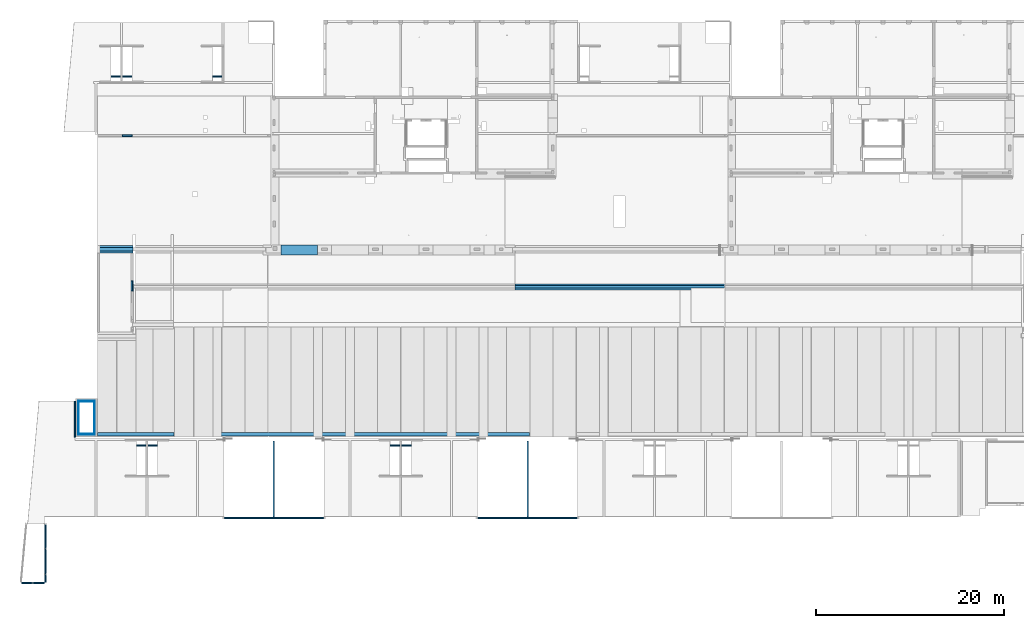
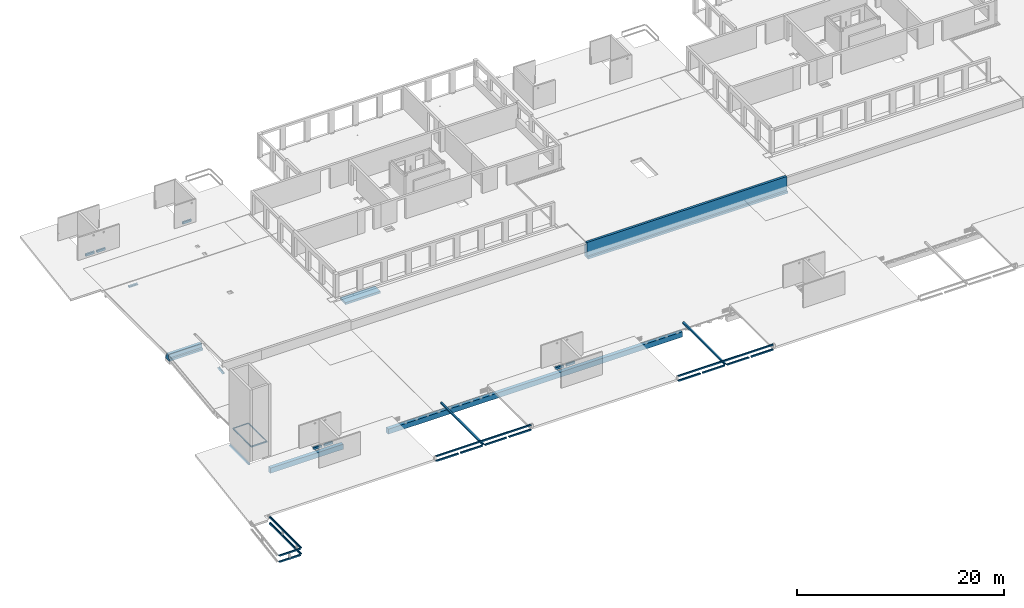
# One storey, part 11 of 36: 35 beams.
"""IFC2X3 building model written with IfcOpenShell, lengths in millimetres."""

from ifc_helpers import new_model, entity, si_unit, converted_unit, derived_unit, direction, frame, frame_2d, origin, place, context, subcontext, project, spatial, polyline, circle_curve, parameter, trimmed, segment, composite_curve, rectangle, i_section, outline, extrude, material, type_object, element, save


model = new_model("IFC2X3")

# Units and contexts
model_context = context("Model", 3, precision=0.01, world=origin(), true_north=direction((6.12303176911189e-17, 1.0)))
body_context = subcontext(model_context, "Body", "Model", "MODEL_VIEW")
ifc_project = project(units=[si_unit("LENGTHUNIT", "METRE", prefix="MILLI"), si_unit("AREAUNIT", "SQUARE_METRE"), si_unit("VOLUMEUNIT", "CUBIC_METRE"), converted_unit("PLANEANGLEUNIT", "DEGREE", entity("IfcRatioMeasure", 0.0174532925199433), si_unit("PLANEANGLEUNIT", "RADIAN"), dimensions=[0, 0, 0, 0, 0, 0, 0]), si_unit("MASSUNIT", "GRAM", prefix="KILO"), derived_unit("MASSDENSITYUNIT", [(si_unit("MASSUNIT", "GRAM", prefix="KILO"), 1), (si_unit("LENGTHUNIT", "METRE"), -3)]), si_unit("TIMEUNIT", "SECOND"), si_unit("FREQUENCYUNIT", "HERTZ"), si_unit("THERMODYNAMICTEMPERATUREUNIT", "DEGREE_CELSIUS"), derived_unit("THERMALTRANSMITTANCEUNIT", [(si_unit("MASSUNIT", "GRAM", prefix="KILO"), 1), (si_unit("THERMODYNAMICTEMPERATUREUNIT", "KELVIN"), -1), (si_unit("TIMEUNIT", "SECOND"), -3)]), derived_unit("VOLUMETRICFLOWRATEUNIT", [(si_unit("LENGTHUNIT", "METRE"), 3), (si_unit("TIMEUNIT", "SECOND"), -1)]), si_unit("ELECTRICCURRENTUNIT", "AMPERE"), si_unit("ELECTRICVOLTAGEUNIT", "VOLT"), si_unit("POWERUNIT", "WATT"), si_unit("FORCEUNIT", "NEWTON", prefix="KILO"), si_unit("ILLUMINANCEUNIT", "LUX"), si_unit("LUMINOUSFLUXUNIT", "LUMEN"), si_unit("LUMINOUSINTENSITYUNIT", "CANDELA"), derived_unit("USERDEFINED", [(si_unit("MASSUNIT", "GRAM", prefix="KILO"), -1), (si_unit("LENGTHUNIT", "METRE"), -2), (si_unit("TIMEUNIT", "SECOND"), 3), (si_unit("LUMINOUSFLUXUNIT", "LUMEN"), 1)]), derived_unit("LINEARVELOCITYUNIT", [(si_unit("LENGTHUNIT", "METRE"), 1), (si_unit("TIMEUNIT", "SECOND"), -1)]), si_unit("PRESSUREUNIT", "PASCAL"), derived_unit("USERDEFINED", [(si_unit("LENGTHUNIT", "METRE"), -2), (si_unit("MASSUNIT", "GRAM", prefix="KILO"), 1), (si_unit("TIMEUNIT", "SECOND"), -2)])], contexts=[model_context])

# Site, building, storey
site_placement = place(None, origin())
site = spatial("IfcSite", under=ifc_project, at=site_placement, Name="Default", CompositionType="ELEMENT")
building_placement = place(site_placement, origin())
building = spatial("IfcBuilding", under=site, at=building_placement, Name="niet gebruiken", CompositionType="ELEMENT")
storey_placement = place(building_placement, frame((0.0, 0.0, 12600.0)))
storey = spatial("IfcBuildingStorey", under=building, at=storey_placement, Name="04 vierde verdieping", CompositionType="ELEMENT", Elevation=12600.0)

# Beams
ifc_material_1 = material(Name="NLRS_f2_beton prefab")
beam_type_1 = type_object("IfcBeamType", Name="NLRS_28.11_SF_WPB_prefabbeton balk dubbele sponning_gen:800x660/200x410/200x410", PredefinedType="BEAM")
beam_1_placement = place(storey_placement, frame((8245.0, 28881.0, -240.0)))
element("IfcBeam", 1, at=beam_1_placement, inside=storey, type_object=beam_type_1, material=ifc_material_1, Name="NLRS_28.11_SF_WPB_prefabbeton balk dubbele sponning_gen:800x660/200x410/200x410", ObjectType="NLRS_28.11_SF_WPB_prefabbeton balk dubbele sponning_gen:800x660/200x410/200x410", context=body_context, shape_type="SweptSolid", body=[
    extrude(outline(polyline([(40.0, -400.0), (290.0, -400.0), (290.0, 400.0), (40.0, 400.0), (40.0, 200.0), (-370.0, 200.0), (-370.0, -200.0), (40.0, -200.0), (40.0, -400.0)])), frame((0.0, 0.0, -370.0), z_axis=(1.0, 0.0, 0.0), x_axis=(0.0, 0.0, -1.0)), (0.0, 0.0, 1.0), 3760.00000000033),
])
beam_type_2 = type_object("IfcBeamType", Name="NLRS_28.11_SF_WPB_prefabbeton balk dubbele sponning_gen:650x1860/200x1530/200x490", PredefinedType="BEAM")
beam_2_placement = place(storey_placement, frame((52650.0, 24876.0, -160.0)))
element("IfcBeam", 2, at=beam_2_placement, inside=storey, type_object=beam_type_2, material=ifc_material_1, Name="NLRS_28.11_SF_WPB_prefabbeton balk dubbele sponning_gen:650x1860/200x1530/200x490", ObjectType="NLRS_28.11_SF_WPB_prefabbeton balk dubbele sponning_gen:650x1860/200x1530/200x490", context=body_context, shape_type="SweptSolid", body=[
    extrude(outline(polyline([(616.250000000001, -325.0), (871.249999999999, -325.0), (871.249999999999, 325.0), (-498.749999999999, 325.0), (-498.750000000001, 125.0), (-988.75, 125.0), (-988.75, -125.0), (616.250000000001, -125.0), (616.250000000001, -325.0)])), frame((0.0, 0.0, -988.75), z_axis=(1.0, 0.0, 0.0), x_axis=(0.0, 0.0, -1.0)), (0.0, 0.0, 1.0), 22299.9999999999),
])
beam_type_3 = type_object("IfcBeamType", Name="NLRS_28.11_SF_WPB_prefabbeton balk recht_gen:400x600", PredefinedType="BEAM")
beam_3_placement = place(storey_placement, frame((8245.0, 9196.0, -1670.0)))
element("IfcBeam", 3, at=beam_3_placement, inside=storey, type_object=beam_type_3, material=ifc_material_1, Name="NLRS_28.11_SF_WPB_prefabbeton balk recht_gen:400x600", ObjectType="NLRS_28.11_SF_WPB_prefabbeton balk recht_gen:400x600", context=body_context, shape_type="SweptSolid", body=[
    extrude(rectangle(XDim=599.999999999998, YDim=400.0, at=frame_2d((1.08002495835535e-12, 3.03259639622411e-11), x_axis=(1.0, 0.0))), frame((0.0, 0.0, -300.0), z_axis=(1.0, 0.0, 0.0), x_axis=(0.0, 0.0, -1.0)), (0.0, 0.0, 1.0), 8155.00000000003),
])
beam_4_placement = place(storey_placement, frame((21400.0, 9196.0, -1670.0)))
element("IfcBeam", 4, at=beam_4_placement, inside=storey, type_object=beam_type_3, material=ifc_material_1, Name="NLRS_28.11_SF_WPB_prefabbeton balk recht_gen:400x600", ObjectType="NLRS_28.11_SF_WPB_prefabbeton balk recht_gen:400x600", context=body_context, shape_type="SweptSolid", body=[
    extrude(rectangle(XDim=600.0, YDim=400.0, at=frame_2d((1.08002495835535e-12, 1.22355459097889e-10), x_axis=(1.0, 0.0))), frame((0.0, 0.0, -300.0), z_axis=(1.0, 0.0, 0.0), x_axis=(0.0, 0.0, -1.0)), (0.0, 0.0, 1.0), 32800.0),
])
ifc_material_2 = material(Name="NLRS_h2_staal")
beam_type_4 = type_object("IfcBeamType", Name="NLRS_28.11_SF_WPB_stalen ligger HEA_gen:ligger HEA 160", PredefinedType="BEAM")
beam_5_placement = place(storey_placement, frame((21700.0, 300.0, -240.0)))
element("IfcBeam", 5, at=beam_5_placement, inside=storey, type_object=beam_type_4, material=ifc_material_2, Name="NLRS_28.11_SF_WPB_stalen ligger HEA_gen:ligger HEA 160", ObjectType="NLRS_28.11_SF_WPB_stalen ligger HEA_gen:ligger HEA 160", context=body_context, shape_type="SweptSolid", body=[
    extrude(i_section(OverallWidth=159.999999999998, OverallDepth=152.000000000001, WebThickness=5.99999999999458, FlangeThickness=8.99999999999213, FilletRadius=15.0000000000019, at=frame_2d((0.0, 8.66862137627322e-13), x_axis=(1.0, 0.0))), frame((0.0, 0.0, 0.0), z_axis=(1.0, 0.0, 0.0), x_axis=(0.0, 0.0, -1.0)), (0.0, 0.0, 1.0), 2499.99999999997),
])
for number, where, name in (
    (6, (-24.4230463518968, -6630.0, -415.0), "NLRS_28.11_SF_WPB_stalen ligger HEA_gen:ligger HEA 160"),
    (7, (-24.4230463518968, -6630.0, 319.999928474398), "NLRS_28.11_SF_WPB_stalen ligger HEA_gen:ligger HEA 160"),
):
    element("IfcBeam", number, at=place(storey_placement, frame(where)), inside=storey, type_object=beam_type_4, material=ifc_material_2, Name=name, ObjectType="NLRS_28.11_SF_WPB_stalen ligger HEA_gen:ligger HEA 160", context=body_context, shape_type="SweptSolid", body=[
        extrude(i_section(OverallWidth=160.0, OverallDepth=152.0, WebThickness=5.99999999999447, FlangeThickness=8.99999999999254, FilletRadius=15.0000000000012, at=frame_2d((-1.08002495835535e-12, 0.0), x_axis=(1.0, 0.0))), frame((212.334719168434, 0.0, 0.0), z_axis=(1.0, 0.0, 0.0), x_axis=(0.0, 0.0, -1.0)), (0.0, 0.0, 1.0), 2399.38832718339),
    ])
for number, where, name in (
    (8, (24400.0, 300.0, -240.0), "NLRS_28.11_SF_WPB_stalen ligger HEA_gen:ligger HEA 160"),
    (9, (27100.0, 300.0, -240.0), "NLRS_28.11_SF_WPB_stalen ligger HEA_gen:ligger HEA 160"),
    (10, (29800.0, 300.0, -240.0), "NLRS_28.11_SF_WPB_stalen ligger HEA_gen:ligger HEA 160"),
):
    element("IfcBeam", number, at=place(storey_placement, frame(where)), inside=storey, type_object=beam_type_4, material=ifc_material_2, Name=name, ObjectType="NLRS_28.11_SF_WPB_stalen ligger HEA_gen:ligger HEA 160", context=body_context, shape_type="SweptSolid", body=[
        extrude(i_section(OverallWidth=160.0, OverallDepth=152.000000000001, WebThickness=5.99999999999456, FlangeThickness=8.99999999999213, FilletRadius=15.0000000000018, at=frame_2d((1.08002495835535e-12, 8.45545855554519e-13), x_axis=(1.0, 0.0))), frame((0.0, 0.0, 0.0), z_axis=(1.0, 0.0, 0.0), x_axis=(0.0, 0.0, -1.0)), (0.0, 0.0, 1.0), 2499.99999999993),
    ])
beam_6_placement = place(storey_placement, frame((21700.0, 300.0, 320.0)))
element("IfcBeam", 11, at=beam_6_placement, inside=storey, type_object=beam_type_4, material=ifc_material_2, Name="NLRS_28.11_SF_WPB_stalen ligger HEA_gen:ligger HEA 160", ObjectType="NLRS_28.11_SF_WPB_stalen ligger HEA_gen:ligger HEA 160", context=body_context, shape_type="SweptSolid", body=[
    extrude(i_section(OverallWidth=160.0, OverallDepth=152.000000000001, WebThickness=5.99999999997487, FlangeThickness=8.99999999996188, FilletRadius=15.0000000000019, at=frame_2d((-1.08002495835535e-12, 8.45545855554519e-13), x_axis=(1.0, 0.0))), frame((0.0, 0.0, 0.0), z_axis=(1.0, 0.0, 0.0), x_axis=(0.0, 0.0, -1.0)), (0.0, 0.0, 1.0), 10600.0),
])
beam_7_placement = place(storey_placement, frame((48700.0, 300.0, -240.0)))
element("IfcBeam", 12, at=beam_7_placement, inside=storey, type_object=beam_type_4, material=ifc_material_2, Name="NLRS_28.11_SF_WPB_stalen ligger HEA_gen:ligger HEA 160", ObjectType="NLRS_28.11_SF_WPB_stalen ligger HEA_gen:ligger HEA 160", context=body_context, shape_type="SweptSolid", body=[
    extrude(i_section(OverallWidth=159.999999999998, OverallDepth=152.000000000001, WebThickness=5.99999999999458, FlangeThickness=8.99999999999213, FilletRadius=15.0000000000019, at=frame_2d((0.0, 8.81072992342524e-13), x_axis=(1.0, 0.0))), frame((0.0, 0.0, 0.0), z_axis=(1.0, 0.0, 0.0), x_axis=(0.0, 0.0, -1.0)), (0.0, 0.0, 1.0), 2499.99999999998),
])
beam_8_placement = place(storey_placement, frame((51400.0, 300.0, -240.0)))
element("IfcBeam", 13, at=beam_8_placement, inside=storey, type_object=beam_type_4, material=ifc_material_2, Name="NLRS_28.11_SF_WPB_stalen ligger HEA_gen:ligger HEA 160", ObjectType="NLRS_28.11_SF_WPB_stalen ligger HEA_gen:ligger HEA 160", context=body_context, shape_type="SweptSolid", body=[
    extrude(i_section(OverallWidth=160.0, OverallDepth=152.000000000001, WebThickness=5.99999999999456, FlangeThickness=8.99999999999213, FilletRadius=15.0000000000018, at=frame_2d((1.08002495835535e-12, 8.59756710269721e-13), x_axis=(1.0, 0.0))), frame((0.0, 0.0, 0.0), z_axis=(1.0, 0.0, 0.0), x_axis=(0.0, 0.0, -1.0)), (0.0, 0.0, 1.0), 2499.99999999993),
])
for number, where, name in (
    (14, (54100.0, 300.0, -240.0), "NLRS_28.11_SF_WPB_stalen ligger HEA_gen:ligger HEA 160"),
    (15, (56800.0, 300.0, -240.0), "NLRS_28.11_SF_WPB_stalen ligger HEA_gen:ligger HEA 160"),
):
    element("IfcBeam", number, at=place(storey_placement, frame(where)), inside=storey, type_object=beam_type_4, material=ifc_material_2, Name=name, ObjectType="NLRS_28.11_SF_WPB_stalen ligger HEA_gen:ligger HEA 160", context=body_context, shape_type="SweptSolid", body=[
        extrude(i_section(OverallWidth=160.0, OverallDepth=152.000000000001, WebThickness=5.99999999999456, FlangeThickness=8.99999999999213, FilletRadius=15.0000000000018, at=frame_2d((1.08002495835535e-12, 8.95283847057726e-13), x_axis=(1.0, 0.0))), frame((0.0, 0.0, 0.0), z_axis=(1.0, 0.0, 0.0), x_axis=(0.0, 0.0, -1.0)), (0.0, 0.0, 1.0), 2499.99999999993),
    ])
beam_9_placement = place(storey_placement, frame((48700.0, 300.0, 320.0)))
element("IfcBeam", 16, at=beam_9_placement, inside=storey, type_object=beam_type_4, material=ifc_material_2, Name="NLRS_28.11_SF_WPB_stalen ligger HEA_gen:ligger HEA 160", ObjectType="NLRS_28.11_SF_WPB_stalen ligger HEA_gen:ligger HEA 160", context=body_context, shape_type="SweptSolid", body=[
    extrude(i_section(OverallWidth=160.0, OverallDepth=152.000000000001, WebThickness=5.99999999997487, FlangeThickness=8.99999999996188, FilletRadius=15.0000000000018, at=frame_2d((-1.08002495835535e-12, 8.66862137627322e-13), x_axis=(1.0, 0.0))), frame((0.0, 0.0, 0.0), z_axis=(1.0, 0.0, 0.0), x_axis=(0.0, 0.0, -1.0)), (0.0, 0.0, 1.0), 10600.0),
])
beam_type_5 = type_object("IfcBeamType", Name="NLRS_28.11_SF_WPB_stalen ligger buisprofiel warmgevormd vierkant_gen:ligger buisprofiel warmgevormd vierkant SHSH_180x180x10", PredefinedType="BEAM")
for number, where, z_axis, x_axis, name in (
    (17, (27000.0, 395.0, -180.0), (0.0, 0.0, 1.0), (0.0, 1.0, 0.0), "NLRS_28.11_SF_WPB_stalen ligger buisprofiel warmgevormd vierkant_gen:ligger buisprofiel warmgevormd vierkant SHSH_180x180x10"),
    (18, (54000.0, 395.0, -180.0), (0.0, 0.0, 1.0), (0.0, 1.0, 0.0), "NLRS_28.11_SF_WPB_stalen ligger buisprofiel warmgevormd vierkant_gen:ligger buisprofiel warmgevormd vierkant SHSH_180x180x10"),
):
    element("IfcBeam", number, at=place(storey_placement, frame(where, z_axis=z_axis, x_axis=x_axis)), inside=storey, type_object=beam_type_5, material=ifc_material_2, Name=name, ObjectType="NLRS_28.11_SF_WPB_stalen ligger buisprofiel warmgevormd vierkant_gen:ligger buisprofiel warmgevormd vierkant SHSH_180x180x10", context=body_context, shape_type="SweptSolid", body=[
        extrude(outline(polyline([(-90.0, -90.0), (90.0, -90.0), (90.0, 90.0), (-90.0, 90.0), (-90.0, -90.0)]), holes=[composite_curve([segment(polyline([(-80.0, -70.0), (-80.0, 70.0)]), True, "CONTINUOUS"), segment(trimmed(circle_curve(frame_2d((-70.0, 70.0), x_axis=(0.0, -1.0)), 10.0), [parameter(180.000000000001)], [parameter(270.0)], True, "PARAMETER"), False, "CONTINUOUS"), segment(polyline([(-70.0, 80.0), (70.0, 80.0)]), True, "CONTINUOUS"), segment(trimmed(circle_curve(frame_2d((70.0, 70.0), x_axis=(0.0, -1.0)), 10.0), [parameter(90.0000000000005)], [parameter(180.0)], True, "PARAMETER"), False, "CONTINUOUS"), segment(polyline([(80.0, 70.0), (80.0, -70.0)]), True, "CONTINUOUS"), segment(trimmed(circle_curve(frame_2d((70.0, -70.0), x_axis=(0.0, -1.0)), 10.0), [parameter(4.07110999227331e-13)], [parameter(90.0000000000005)], True, "PARAMETER"), False, "CONTINUOUS"), segment(polyline([(70.0, -80.0), (-70.0, -80.0)]), True, "CONTINUOUS"), segment(trimmed(circle_curve(frame_2d((-70.0, -70.0), x_axis=(0.0, -1.0)), 10.0), [parameter(270.0)], [parameter(4.07110999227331e-13)], True, "PARAMETER"), False, "CONTINUOUS")], self_intersect=False)]), frame((12.7000006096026, 0.0, 0.0), z_axis=(1.0, 0.0, 0.0), x_axis=(0.0, 0.0, -1.0)), (0.0, 0.0, 1.0), 8072.2999993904),
    ])
beam_type_6 = type_object("IfcBeamType", Name="NLRS_28.11_SF_WPB_stalen ligger hoekprofiel gelijkzijdig_gen:ligger gelijzijdig hoekprofiel LEQU_200x200x15", PredefinedType="BEAM")
beam_10_placement = place(storey_placement, frame((10900.0, 40968.5000000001, -460.0)))
element("IfcBeam", 19, at=beam_10_placement, inside=storey, type_object=beam_type_6, material=ifc_material_2, Name="NLRS_28.11_SF_WPB_stalen ligger hoekprofiel gelijkzijdig_gen:ligger gelijzijdig hoekprofiel LEQU_200x200x15", ObjectType="NLRS_28.11_SF_WPB_stalen ligger hoekprofiel gelijkzijdig_gen:ligger gelijzijdig hoekprofiel LEQU_200x200x15", context=body_context, shape_type="SweptSolid", body=[
    extrude(outline(composite_curve([segment(polyline([(66.3333333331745, -126.666666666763), (73.3333333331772, -126.666666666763)]), True, "CONTINUOUS"), segment(polyline([(73.3333333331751, -126.666666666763), (73.3333333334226, 73.3333333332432)]), True, "CONTINUOUS"), segment(polyline([(73.3333333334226, 73.3333333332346), (-126.666666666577, 73.3333333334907)]), True, "CONTINUOUS"), segment(polyline([(-126.666666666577, 73.3333333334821), (-126.666666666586, 66.3333333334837)]), True, "CONTINUOUS"), segment(trimmed(circle_curve(frame_2d((-118.666666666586, 66.3333333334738), x_axis=(-1.0, 0.0)), 7.9999999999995), [parameter(0.0)], [parameter(90.0000000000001)], True, "PARAMETER"), True, "CONTINUOUS"), segment(polyline([(-118.666666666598, 58.3333333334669), (42.3333333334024, 58.3333333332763)]), True, "CONTINUOUS"), segment(trimmed(circle_curve(frame_2d((42.3333333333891, 42.33333333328), x_axis=(0.0, 1.0)), 15.9999999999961), [parameter(269.999999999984)], [parameter(0.0)], True, "PARAMETER"), False, "CONTINUOUS"), segment(polyline([(58.3333333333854, 42.3333333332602), (58.3333333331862, -118.666666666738)]), True, "CONTINUOUS"), segment(trimmed(circle_curve(frame_2d((66.3333333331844, -118.666666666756), x_axis=(-1.0, 0.0)), 7.99999999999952), [parameter(0.0)], [parameter(90.0000000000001)], True, "PARAMETER"), True, "CONTINUOUS")], self_intersect=False)), frame((0.0, 19.166666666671, -126.66666666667), z_axis=(1.0, 0.0, 0.0), x_axis=(0.0, 0.0, -1.0)), (0.0, 0.0, 1.0), 1025.00000000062),
])
beam_type_7 = type_object("IfcBeamType", Name="NLRS_28.11_SF_WPB_stalen ligger HEA_gen:ligger HEA 180", PredefinedType="BEAM")
beam_11_placement = place(storey_placement, frame((2700.0, -450.0, -425.0), z_axis=(0.0, 0.0, 1.0), x_axis=(0.0, -1.0, 0.0)))
element("IfcBeam", 20, at=beam_11_placement, inside=storey, type_object=beam_type_7, material=ifc_material_2, Name="NLRS_28.11_SF_WPB_stalen ligger HEA_gen:ligger HEA 180", ObjectType="NLRS_28.11_SF_WPB_stalen ligger HEA_gen:ligger HEA 180", context=body_context, shape_type="SweptSolid", body=[
    extrude(i_section(OverallWidth=180.0, OverallDepth=171.000000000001, WebThickness=6.00000000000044, FlangeThickness=9.50000000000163, FilletRadius=15.0000000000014, at=frame_2d((-1.08002495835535e-12, 8.10018718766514e-13), x_axis=(1.0, 0.0))), frame((0.0, 0.0, 0.0), z_axis=(1.0, 0.0, 0.0), x_axis=(0.0, 0.0, -1.0)), (0.0, 0.0, 1.0), 6084.99999999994),
])
beam_12_placement = place(storey_placement, frame((2700.0, -450.0, 309.999928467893), z_axis=(0.0, 0.0, 1.0), x_axis=(0.0, -1.0, 0.0)))
element("IfcBeam", 21, at=beam_12_placement, inside=storey, type_object=beam_type_7, material=ifc_material_2, Name="NLRS_28.11_SF_WPB_stalen ligger HEA_gen:ligger HEA 180", ObjectType="NLRS_28.11_SF_WPB_stalen ligger HEA_gen:ligger HEA 180", context=body_context, shape_type="SweptSolid", body=[
    extrude(i_section(OverallWidth=180.0, OverallDepth=171.000000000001, WebThickness=6.0000000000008, FlangeThickness=9.50000000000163, FilletRadius=15.0000000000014, at=frame_2d((-1.08002495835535e-12, 8.10018718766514e-13), x_axis=(1.0, 0.0))), frame((12.6997901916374, 0.0, 0.0), z_axis=(1.0, 0.0, 0.0), x_axis=(0.0, 0.0, -1.0)), (0.0, 0.0, 1.0), 6072.3002098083),
])
ifc_material_3 = material(Name="NLRS_f2_beton ihwg")
beam_type_8 = type_object("IfcBeamType", Name="NLRS_28.11_SF_WPB_betonbalk ihwg recht_gen:180x250", PredefinedType="BEAM")
beam_13_placement = place(storey_placement, frame((9705.0, 47236.0, -90.0)))
element("IfcBeam", 22, at=beam_13_placement, inside=storey, type_object=beam_type_8, material=ifc_material_3, Name="NLRS_28.11_SF_WPB_betonbalk ihwg recht_gen:180x250", ObjectType="NLRS_28.11_SF_WPB_betonbalk ihwg recht_gen:180x250", context=body_context, shape_type="SweptSolid", body=[
    extrude(rectangle(XDim=249.999999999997, YDim=180.000000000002, at=frame_2d((1.08002495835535e-12, -4.33431068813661e-12), x_axis=(1.0, 0.0))), frame((0.0, 0.0, -125.0), z_axis=(1.0, 0.0, 0.0), x_axis=(0.0, 0.0, -1.0)), (0.0, 0.0, 1.0), 970.000000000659),
])
for number, where, name in (
    (23, (10925.0, 47236.0, -90.0), "NLRS_28.11_SF_WPB_betonbalk ihwg recht_gen:180x250"),
    (24, (20505.0, 47236.0, -90.0), "NLRS_28.11_SF_WPB_betonbalk ihwg recht_gen:180x250"),
):
    element("IfcBeam", number, at=place(storey_placement, frame(where)), inside=storey, type_object=beam_type_8, material=ifc_material_3, Name=name, ObjectType="NLRS_28.11_SF_WPB_betonbalk ihwg recht_gen:180x250", context=body_context, shape_type="SweptSolid", body=[
        extrude(rectangle(XDim=249.999999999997, YDim=180.000000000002, at=frame_2d((1.08002495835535e-12, -4.33431068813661e-12), x_axis=(1.0, 0.0))), frame((0.0, 0.0, -125.0), z_axis=(1.0, 0.0, 0.0), x_axis=(0.0, 0.0, -1.0)), (0.0, 0.0, 1.0), 970.00000000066),
    ])
for number, where, name in (
    (25, (12405.0, 8006.0, -90.0), "NLRS_28.11_SF_WPB_betonbalk ihwg recht_gen:180x250"),
    (26, (13625.0, 8006.0, -90.0), "NLRS_28.11_SF_WPB_betonbalk ihwg recht_gen:180x250"),
):
    element("IfcBeam", number, at=place(storey_placement, frame(where)), inside=storey, type_object=beam_type_8, material=ifc_material_3, Name=name, ObjectType="NLRS_28.11_SF_WPB_betonbalk ihwg recht_gen:180x250", context=body_context, shape_type="SweptSolid", body=[
        extrude(rectangle(XDim=249.999999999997, YDim=180.0, at=frame_2d((1.08713038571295e-12, 6.50146603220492e-12), x_axis=(1.0, 0.0))), frame((0.0, 0.0, -125.0), z_axis=(1.0, 0.0, 0.0), x_axis=(0.0, 0.0, -1.0)), (0.0, 0.0, 1.0), 970.00000000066),
    ])
for number, where, name in (
    (27, (39405.0, 8006.0, -90.0), "NLRS_28.11_SF_WPB_betonbalk ihwg recht_gen:180x250"),
    (28, (40625.0, 8006.0, -90.0), "NLRS_28.11_SF_WPB_betonbalk ihwg recht_gen:180x250"),
):
    element("IfcBeam", number, at=place(storey_placement, frame(where)), inside=storey, type_object=beam_type_8, material=ifc_material_3, Name=name, ObjectType="NLRS_28.11_SF_WPB_betonbalk ihwg recht_gen:180x250", context=body_context, shape_type="SweptSolid", body=[
        extrude(rectangle(XDim=249.999999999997, YDim=180.0, at=frame_2d((1.08713038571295e-12, 6.50146603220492e-12), x_axis=(1.0, 0.0))), frame((0.0, 0.0, -125.0), z_axis=(1.0, 0.0, 0.0), x_axis=(0.0, 0.0, -1.0)), (0.0, 0.0, 1.0), 970.000000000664),
    ])
beam_type_9 = type_object("IfcBeamType", Name="NLRS_28.11_SF_WPB_stalen ligger hoekprofiel gelijkzijdig_gen:ligger gelijzijdig hoekprofiel LEQU_180x180x16", PredefinedType="BEAM")
beam_14_placement = place(storey_placement, frame((5874.49999999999, 12711.0, -181.0), z_axis=(0.0, 0.0, 1.0), x_axis=(0.0, -1.0, 0.0)))
element("IfcBeam", 29, at=beam_14_placement, inside=storey, type_object=beam_type_9, material=ifc_material_2, Name="NLRS_28.11_SF_WPB_stalen ligger hoekprofiel gelijkzijdig_gen:ligger gelijzijdig hoekprofiel LEQU_180x180x16", ObjectType="NLRS_28.11_SF_WPB_stalen ligger hoekprofiel gelijkzijdig_gen:ligger gelijzijdig hoekprofiel LEQU_180x180x16", context=body_context, shape_type="SweptSolid", body=[
    extrude(outline(composite_curve([segment(polyline([(60.1111111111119, -112.888888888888), (67.1111111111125, -112.888888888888)]), True, "CONTINUOUS"), segment(polyline([(67.1111111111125, -112.888888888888), (67.1111111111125, 67.1111111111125)]), True, "CONTINUOUS"), segment(polyline([(67.1111111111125, 67.1111111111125), (-112.888888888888, 67.1111111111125)]), True, "CONTINUOUS"), segment(polyline([(-112.888888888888, 67.1111111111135), (-112.888888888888, 60.1111111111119)]), True, "CONTINUOUS"), segment(trimmed(circle_curve(frame_2d((-103.888888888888, 60.111111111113), x_axis=(-1.0, 0.0)), 9.00000000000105), [parameter(0.0)], [parameter(89.9999999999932)], True, "PARAMETER"), True, "CONTINUOUS"), segment(polyline([(-103.888888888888, 51.1111111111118), (33.1111111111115, 51.1111111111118)]), True, "CONTINUOUS"), segment(trimmed(circle_curve(frame_2d((33.1111111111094, 33.1111111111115), x_axis=(0.0, 1.0)), 18.0000000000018), [parameter(270.00000000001)], [parameter(0.0)], True, "PARAMETER"), False, "CONTINUOUS"), segment(polyline([(51.1111111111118, 33.1111111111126), (51.1111111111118, -103.888888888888)]), True, "CONTINUOUS"), segment(trimmed(circle_curve(frame_2d((60.1111111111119, -103.888888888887), x_axis=(-1.0, 0.0)), 9.00000000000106), [parameter(0.0)], [parameter(89.9999999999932)], True, "PARAMETER"), True, "CONTINUOUS")], self_intersect=False)), frame((0.0, -16.9111111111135, -112.88888888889), z_axis=(1.0, 0.0, 0.0), x_axis=(0.0, 0.0, -1.0)), (0.0, 0.0, 1.0), 3825.00000000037),
])
beam_type_10 = type_object("IfcBeamType", Name="NLRS_28.11_SF_WPB_betonbalk ihwg recht_gen:1050x250", PredefinedType="BEAM")
beam_15_placement = place(storey_placement, frame((27750.0, 28781.0, -650.0)))
element("IfcBeam", 30, at=beam_15_placement, inside=storey, type_object=beam_type_10, material=ifc_material_3, Name="NLRS_28.11_SF_WPB_betonbalk ihwg recht_gen:1050x250", ObjectType="NLRS_28.11_SF_WPB_betonbalk ihwg recht_gen:1050x250", context=body_context, shape_type="SweptSolid", body=[
    extrude(rectangle(XDim=249.999999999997, YDim=1050.0, at=frame_2d((1.08002495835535e-12, 1.08002495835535e-11), x_axis=(1.0, 0.0))), frame((0.0, 0.0, -125.0), z_axis=(1.0, 0.0, 0.0), x_axis=(0.0, 0.0, -1.0)), (0.0, 0.0, 1.0), 3900.0),
])
beam_type_11 = type_object("IfcBeamType", Name="NLRS_28.11_SF_WPB_stalen ligger hoekprofiel gelijkzijdig_gen:ligger gelijzijdig hoekprofiel LEQU_100x100x10", PredefinedType="BEAM")
beam_16_placement = place(storey_placement, frame((6175.0, 9136.0, 1530.0), z_axis=(0.0, 0.0, 1.0), x_axis=(0.0, 1.0, 0.0)))
element("IfcBeam", 31, at=beam_16_placement, inside=storey, type_object=beam_type_11, material=ifc_material_2, Name="NLRS_28.11_SF_WPB_stalen ligger hoekprofiel gelijkzijdig_gen:ligger gelijzijdig hoekprofiel LEQU_100x100x10", ObjectType="NLRS_28.11_SF_WPB_stalen ligger hoekprofiel gelijkzijdig_gen:ligger gelijzijdig hoekprofiel LEQU_100x100x10", context=body_context, shape_type="SweptSolid", body=[
    extrude(outline(composite_curve([segment(polyline([(-37.7777777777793, -62.2222222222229), (-33.777777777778, -62.2222222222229)]), True, "CONTINUOUS"), segment(trimmed(circle_curve(frame_2d((-33.7777777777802, -56.222222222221), x_axis=(0.0, -1.0)), 6.00000000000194), [parameter(0.0)], [parameter(89.9999999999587)], True, "PARAMETER"), True, "CONTINUOUS"), segment(polyline([(-27.7777777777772, -56.2222222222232), (-27.7777777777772, 15.7777777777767)]), True, "CONTINUOUS"), segment(trimmed(circle_curve(frame_2d((-15.7777777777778, 15.7777777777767), x_axis=(-1.0, 0.0)), 11.9999999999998), [parameter(270.0)], [parameter(0.0)], True, "PARAMETER"), False, "CONTINUOUS"), segment(polyline([(-15.7777777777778, 27.7777777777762), (56.222222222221, 27.7777777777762)]), True, "CONTINUOUS"), segment(trimmed(circle_curve(frame_2d((56.2222222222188, 33.7777777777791), x_axis=(0.0, -1.0)), 6.00000000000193), [parameter(0.0)], [parameter(89.9999999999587)], True, "PARAMETER"), True, "CONTINUOUS"), segment(polyline([(62.2222222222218, 33.7777777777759), (62.2222222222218, 37.7777777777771)]), True, "CONTINUOUS"), segment(polyline([(62.2222222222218, 37.7777777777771), (-37.7777777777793, 37.7777777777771)]), True, "CONTINUOUS"), segment(polyline([(-37.7777777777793, 37.7777777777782), (-37.7777777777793, -62.2222222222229)]), True, "CONTINUOUS")], self_intersect=False)), frame((125.0, -37.777777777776, -37.7777777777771), z_axis=(1.0, 0.0, 0.0), x_axis=(0.0, 0.0, -1.0)), (0.0, 0.0, 1.0), 3350.00000000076),
])
beam_17_placement = place(storey_placement, frame((7975.0, 12736.0, 1530.0), z_axis=(0.0, 0.0, 1.0), x_axis=(-1.0, 0.0, 0.0)))
element("IfcBeam", 32, at=beam_17_placement, inside=storey, type_object=beam_type_11, material=ifc_material_2, Name="NLRS_28.11_SF_WPB_stalen ligger hoekprofiel gelijkzijdig_gen:ligger gelijzijdig hoekprofiel LEQU_100x100x10", ObjectType="NLRS_28.11_SF_WPB_stalen ligger hoekprofiel gelijkzijdig_gen:ligger gelijzijdig hoekprofiel LEQU_100x100x10", context=body_context, shape_type="SweptSolid", body=[
    extrude(outline(composite_curve([segment(polyline([(-37.7777777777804, -37.7777777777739), (62.2222222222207, -37.7777777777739)]), True, "CONTINUOUS"), segment(polyline([(62.2222222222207, -37.7777777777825), (62.222222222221, -33.7777777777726)]), True, "CONTINUOUS"), segment(trimmed(circle_curve(frame_2d((56.2222222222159, -33.7777777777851), x_axis=(1.0, 0.0)), 6.00000000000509), [parameter(0.0)], [parameter(89.9999999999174)], True, "PARAMETER"), True, "CONTINUOUS"), segment(polyline([(56.2222222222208, -27.7777777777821), (-15.777777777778, -27.7777777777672)]), True, "CONTINUOUS"), segment(trimmed(circle_curve(frame_2d((-15.7777777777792, -15.7777777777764), x_axis=(0.0, -1.0)), 11.9999999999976), [parameter(269.999999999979)], [parameter(0.0)], True, "PARAMETER"), False, "CONTINUOUS"), segment(polyline([(-27.7777777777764, -15.7777777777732), (-27.7777777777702, 56.2222222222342)]), True, "CONTINUOUS"), segment(trimmed(circle_curve(frame_2d((-33.7777777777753, 56.2222222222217), x_axis=(1.0, 0.0)), 6.00000000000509), [parameter(0.0)], [parameter(89.9999999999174)], True, "PARAMETER"), True, "CONTINUOUS"), segment(polyline([(-33.7777777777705, 62.2222222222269), (-37.7777777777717, 62.2222222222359)]), True, "CONTINUOUS"), segment(polyline([(-37.7777777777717, 62.2222222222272), (-37.7777777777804, -37.7777777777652)]), True, "CONTINUOUS")], self_intersect=False)), frame((25.0, 37.7777777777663, -37.777777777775), z_axis=(1.0, 0.0, 0.0), x_axis=(0.0, 0.0, -1.0)), (0.0, 0.0, 1.0), 1749.99999999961),
])
beam_18_placement = place(storey_placement, frame((7975.0, 9136.0, 1530.0), z_axis=(0.0, 0.0, 1.0), x_axis=(-1.0, 0.0, 0.0)))
element("IfcBeam", 33, at=beam_18_placement, inside=storey, type_object=beam_type_11, material=ifc_material_2, Name="NLRS_28.11_SF_WPB_stalen ligger hoekprofiel gelijkzijdig_gen:ligger gelijzijdig hoekprofiel LEQU_100x100x10", ObjectType="NLRS_28.11_SF_WPB_stalen ligger hoekprofiel gelijkzijdig_gen:ligger gelijzijdig hoekprofiel LEQU_100x100x10", context=body_context, shape_type="SweptSolid", body=[
    extrude(outline(composite_curve([segment(polyline([(-37.7777777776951, -62.2222222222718), (-33.7777777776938, -62.2222222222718)]), True, "CONTINUOUS"), segment(trimmed(circle_curve(frame_2d((-33.7777777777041, -56.22222222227), x_axis=(0.0, -1.0)), 6.00000000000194), [parameter(0.0)], [parameter(89.9999999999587)], True, "PARAMETER"), True, "CONTINUOUS"), segment(polyline([(-27.7777777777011, -56.2222222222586), (-27.7777777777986, 15.7777777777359)]), True, "CONTINUOUS"), segment(trimmed(circle_curve(frame_2d((-15.7777777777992, 15.7777777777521), x_axis=(-1.0, 0.0)), 11.9999999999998), [parameter(270.0)], [parameter(0.0)], True, "PARAMETER"), False, "CONTINUOUS"), segment(polyline([(-15.7777777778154, 27.777777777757), (56.2222222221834, 27.777777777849)]), True, "CONTINUOUS"), segment(trimmed(circle_curve(frame_2d((56.2222222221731, 33.777777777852), x_axis=(0.0, -1.0)), 6.00000000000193), [parameter(0.0)], [parameter(89.9999999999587)], True, "PARAMETER"), True, "CONTINUOUS"), segment(polyline([(62.2222222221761, 33.7777777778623), (62.2222222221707, 37.7777777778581)]), True, "CONTINUOUS"), segment(polyline([(62.2222222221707, 37.7777777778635), (-37.7777777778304, 37.7777777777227)]), True, "CONTINUOUS"), segment(polyline([(-37.7777777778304, 37.7777777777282), (-37.7777777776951, -62.2222222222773)]), True, "CONTINUOUS")], self_intersect=False)), frame((25.0, -37.7777777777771, -37.7777777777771), z_axis=(1.0, 0.0, 0.0), x_axis=(0.0, 0.0, -1.0)), (0.0, 0.0, 1.0), 1749.99999999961),
])
beam_19_placement = place(storey_placement, frame((7975.0, 9136.0, 1530.0), z_axis=(0.0, 0.0, 1.0), x_axis=(0.0, 1.0, 0.0)))
element("IfcBeam", 34, at=beam_19_placement, inside=storey, type_object=beam_type_11, material=ifc_material_2, Name="NLRS_28.11_SF_WPB_stalen ligger hoekprofiel gelijkzijdig_gen:ligger gelijzijdig hoekprofiel LEQU_100x100x10", ObjectType="NLRS_28.11_SF_WPB_stalen ligger hoekprofiel gelijkzijdig_gen:ligger gelijzijdig hoekprofiel LEQU_100x100x10", context=body_context, shape_type="SweptSolid", body=[
    extrude(outline(composite_curve([segment(polyline([(-37.7777777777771, -37.7777777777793), (62.222222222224, -37.7777777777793)]), True, "CONTINUOUS"), segment(polyline([(62.222222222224, -37.7777777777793), (62.222222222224, -33.777777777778)]), True, "CONTINUOUS"), segment(trimmed(circle_curve(frame_2d((56.222222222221, -33.7777777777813), x_axis=(1.0, 0.0)), 6.00000000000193), [parameter(0.0)], [parameter(89.9999999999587)], True, "PARAMETER"), True, "CONTINUOUS"), segment(polyline([(56.2222222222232, -27.7777777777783), (-15.7777777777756, -27.7777777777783)]), True, "CONTINUOUS"), segment(trimmed(circle_curve(frame_2d((-15.7777777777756, -15.7777777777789), x_axis=(0.0, -1.0)), 11.9999999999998), [parameter(270.0)], [parameter(0.0)], True, "PARAMETER"), False, "CONTINUOUS"), segment(polyline([(-27.7777777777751, -15.7777777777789), (-27.7777777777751, 56.222222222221)]), True, "CONTINUOUS"), segment(trimmed(circle_curve(frame_2d((-33.777777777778, 56.2222222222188), x_axis=(1.0, 0.0)), 6.00000000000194), [parameter(0.0)], [parameter(89.9999999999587)], True, "PARAMETER"), True, "CONTINUOUS"), segment(polyline([(-33.7777777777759, 62.2222222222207), (-37.7777777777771, 62.2222222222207)]), True, "CONTINUOUS"), segment(polyline([(-37.7777777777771, 62.2222222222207), (-37.7777777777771, -37.7777777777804)]), True, "CONTINUOUS")], self_intersect=False)), frame((125.0, 37.7777777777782, -37.777777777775), z_axis=(1.0, 0.0, 0.0), x_axis=(0.0, 0.0, -1.0)), (0.0, 0.0, 1.0), 3350.00000000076),
])
beam_type_12 = type_object("IfcBeamType", Name="NLRS_28.11_SF_WPB_stalen ligger hoekprofiel gelijkzijdig_gen:ligger gelijzijdig hoekprofiel LEQU_200x200x16", PredefinedType="BEAM")
beam_20_placement = place(storey_placement, frame((11969.8, 25495.8615808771, -1080.00986156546), z_axis=(0.0, -0.123826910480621, 0.992303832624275), x_axis=(0.0, -0.992303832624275, -0.123826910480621)))
element("IfcBeam", 35, at=beam_20_placement, inside=storey, type_object=beam_type_12, material=ifc_material_2, Name="NLRS_28.11_SF_WPB_stalen ligger hoekprofiel gelijkzijdig_gen:ligger gelijzijdig hoekprofiel LEQU_200x200x16", ObjectType="NLRS_28.11_SF_WPB_stalen ligger hoekprofiel gelijkzijdig_gen:ligger gelijzijdig hoekprofiel LEQU_200x200x16", context=body_context, shape_type="SweptSolid", body=[
    extrude(outline(composite_curve([segment(polyline([(66.777777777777, -126.222222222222), (73.7777777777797, -126.222222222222)]), True, "CONTINUOUS"), segment(polyline([(73.7777777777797, -126.22222222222), (73.7777777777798, 73.7777777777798)]), True, "CONTINUOUS"), segment(polyline([(73.7777777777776, 73.7777777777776), (-126.222222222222, 73.7777777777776)]), True, "CONTINUOUS"), segment(polyline([(-126.222222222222, 73.7777777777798), (-126.222222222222, 66.777777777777)]), True, "CONTINUOUS"), segment(trimmed(circle_curve(frame_2d((-117.222222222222, 66.777777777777), x_axis=(-1.0, 0.0)), 9.00000000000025), [parameter(0.0)], [parameter(90.0000000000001)], True, "PARAMETER"), True, "CONTINUOUS"), segment(polyline([(-117.222222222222, 57.7777777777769), (39.7777777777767, 57.7777777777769)]), True, "CONTINUOUS"), segment(trimmed(circle_curve(frame_2d((39.7777777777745, 39.7777777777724), x_axis=(0.0, 1.0)), 18.0000000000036), [parameter(270.000000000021)], [parameter(0.0)], True, "PARAMETER"), False, "CONTINUOUS"), segment(polyline([(57.7777777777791, 39.7777777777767), (57.7777777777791, -117.222222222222)]), True, "CONTINUOUS"), segment(trimmed(circle_curve(frame_2d((66.7777777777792, -117.222222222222), x_axis=(-1.0, 0.0)), 9.00000000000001), [parameter(0.0)], [parameter(90.0000000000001)], True, "PARAMETER"), True, "CONTINUOUS")], self_intersect=False)), frame((0.0, -18.5777777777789, 73.7777777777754), z_axis=(1.0, 0.0, 0.0), x_axis=(0.0, 0.0, -1.0)), (0.0, 0.0, 1.0), 1075.0),
])

save(model, "model.ifc")
